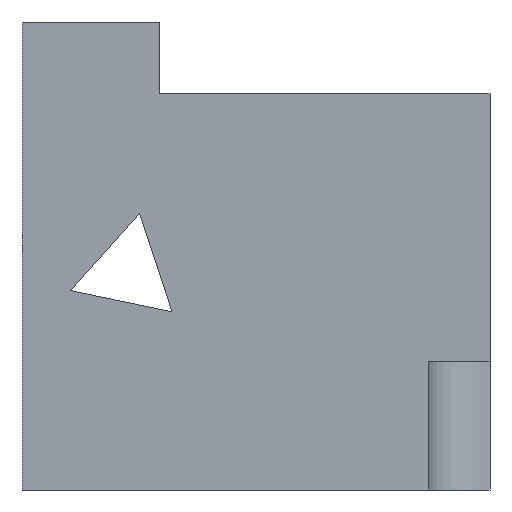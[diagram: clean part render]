
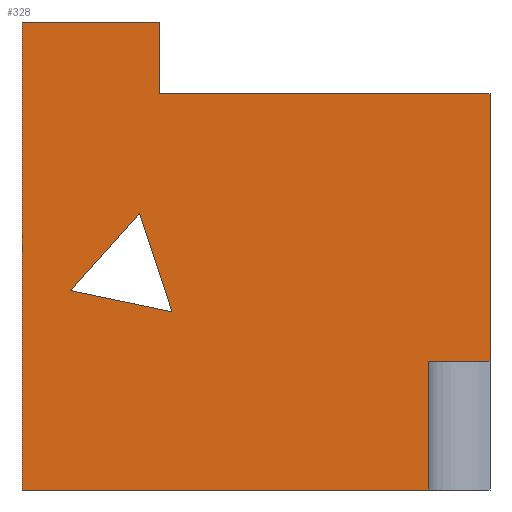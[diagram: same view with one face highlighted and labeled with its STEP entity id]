
A CAD part, left-side view. The second image highlights one B-rep face of the part: STEP entity #328.
In plain terms, the highlighted planar face has unit normal (-1, 0, 0).
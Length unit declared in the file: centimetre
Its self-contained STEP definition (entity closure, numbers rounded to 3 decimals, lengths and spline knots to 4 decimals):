
#20 = LINE ( 'NONE', #1115, #1390 ) ;
#40 = EDGE_CURVE ( 'NONE', #859, #370, #20, .T. ) ;
#47 = DIRECTION ( 'NONE',  ( 0., -1., 0. ) ) ;
#54 = CARTESIAN_POINT ( 'NONE',  ( 0., 0., 847.2054 ) ) ;
#85 = DIRECTION ( 'NONE',  ( 1., 0., 0. ) ) ;
#125 = EDGE_CURVE ( 'NONE', #1674, #859, #805, .T. ) ;
#136 = ORIENTED_EDGE ( 'NONE', *, *, #311, .F. ) ;
#167 = ORIENTED_EDGE ( 'NONE', *, *, #969, .F. ) ;
#168 = VERTEX_POINT ( 'NONE', #1256 ) ;
#171 = CARTESIAN_POINT ( 'NONE',  ( 0., 705.8839, 847.2054 ) ) ;
#189 = EDGE_CURVE ( 'NONE', #168, #1365, #361, .T. ) ;
#200 = ORIENTED_EDGE ( 'NONE', *, *, #837, .F. ) ;
#204 = EDGE_CURVE ( 'NONE', #1365, #1391, #801, .T. ) ;
#207 = VERTEX_POINT ( 'NONE', #1327 ) ;
#208 = LINE ( 'NONE', #749, #954 ) ;
#210 = VECTOR ( 'NONE', #387, 100. ) ;
#228 = FACE_BOUND ( 'NONE', #546, .T. ) ;
#229 = LINE ( 'NONE', #268, #512 ) ;
#235 = LINE ( 'NONE', #1569, #1544 ) ;
#255 = VECTOR ( 'NONE', #1105, 100. ) ;
#268 = CARTESIAN_POINT ( 'NONE',  ( 0., 748.6354, 591.211 ) ) ;
#311 = EDGE_CURVE ( 'NONE', #500, #1685, #673, .T. ) ;
#323 = ORIENTED_EDGE ( 'NONE', *, *, #40, .F. ) ;
#328 = ADVANCED_FACE ( 'NONE', ( #228, #1297 ), #1185, .F. ) ;
#334 = CARTESIAN_POINT ( 'NONE',  ( 0., 679.5419, 380.8241 ) ) ;
#357 = CARTESIAN_POINT ( 'NONE',  ( 0., 130.424, 0. ) ) ;
#361 = LINE ( 'NONE', #1417, #606 ) ;
#370 = VERTEX_POINT ( 'NONE', #1090 ) ;
#379 = ORIENTED_EDGE ( 'NONE', *, *, #1505, .F. ) ;
#387 = DIRECTION ( 'NONE',  ( 0., -1., 0. ) ) ;
#401 = DIRECTION ( 'NONE',  ( 0., 0., 1. ) ) ;
#407 = CARTESIAN_POINT ( 'NONE',  ( 0., 130.424, 275.2271 ) ) ;
#410 = DIRECTION ( 'NONE',  ( 0., 0., -1. ) ) ;
#420 = ORIENTED_EDGE ( 'NONE', *, *, #1065, .T. ) ;
#500 = VERTEX_POINT ( 'NONE', #334 ) ;
#512 = VECTOR ( 'NONE', #1712, 100. ) ;
#546 = EDGE_LOOP ( 'NONE', ( #136, #1439, #200 ) ) ;
#588 = ORIENTED_EDGE ( 'NONE', *, *, #125, .F. ) ;
#606 = VECTOR ( 'NONE', #47, 100. ) ;
#639 = DIRECTION ( 'NONE',  ( 0., 0., -1. ) ) ;
#668 = VECTOR ( 'NONE', #1202, 100. ) ;
#673 = LINE ( 'NONE', #1071, #668 ) ;
#707 = EDGE_CURVE ( 'NONE', #207, #1391, #208, .T. ) ;
#710 = LINE ( 'NONE', #835, #1541 ) ;
#732 = VERTEX_POINT ( 'NONE', #54 ) ;
#749 = CARTESIAN_POINT ( 'NONE',  ( 0., 1000., 275.2271 ) ) ;
#794 = VECTOR ( 'NONE', #1617, 100. ) ;
#801 = LINE ( 'NONE', #1593, #1530 ) ;
#805 = LINE ( 'NONE', #924, #210 ) ;
#835 = CARTESIAN_POINT ( 'NONE',  ( 0., 0., 1000. ) ) ;
#837 = EDGE_CURVE ( 'NONE', #1685, #1248, #229, .T. ) ;
#839 = CARTESIAN_POINT ( 'NONE',  ( 0., 1000., 1000. ) ) ;
#859 = VERTEX_POINT ( 'NONE', #1032 ) ;
#901 = DIRECTION ( 'NONE',  ( 0., -0.979, -0.205 ) ) ;
#923 = ORIENTED_EDGE ( 'NONE', *, *, #204, .T. ) ;
#924 = CARTESIAN_POINT ( 'NONE',  ( 0., 1000., 1000. ) ) ;
#954 = VECTOR ( 'NONE', #1149, 100. ) ;
#969 = EDGE_CURVE ( 'NONE', #732, #207, #710, .T. ) ;
#1032 = CARTESIAN_POINT ( 'NONE',  ( 0., 705.8839, 1000. ) ) ;
#1065 = EDGE_CURVE ( 'NONE', #1674, #168, #1214, .T. ) ;
#1071 = CARTESIAN_POINT ( 'NONE',  ( 0., 679.5419, 380.8241 ) ) ;
#1083 = AXIS2_PLACEMENT_3D ( 'NONE', #1456, #85, #639 ) ;
#1090 = CARTESIAN_POINT ( 'NONE',  ( 0., 705.8839, 847.2054 ) ) ;
#1105 = DIRECTION ( 'NONE',  ( 0., -1., 0. ) ) ;
#1106 = ORIENTED_EDGE ( 'NONE', *, *, #189, .T. ) ;
#1115 = CARTESIAN_POINT ( 'NONE',  ( 0., 705.8839, 847.2054 ) ) ;
#1149 = DIRECTION ( 'NONE',  ( 0., 1., 0. ) ) ;
#1185 = PLANE ( 'NONE',  #1083 ) ;
#1202 = DIRECTION ( 'NONE',  ( 0., 0.312, 0.95 ) ) ;
#1214 = LINE ( 'NONE', #1371, #794 ) ;
#1248 = VERTEX_POINT ( 'NONE', #1680 ) ;
#1256 = CARTESIAN_POINT ( 'NONE',  ( 0., 1000., 0. ) ) ;
#1297 = FACE_OUTER_BOUND ( 'NONE', #1301, .T. ) ;
#1301 = EDGE_LOOP ( 'NONE', ( #167, #379, #323, #588, #420, #1106, #923, #1363 ) ) ;
#1327 = CARTESIAN_POINT ( 'NONE',  ( 0., 0., 275.2271 ) ) ;
#1359 = EDGE_CURVE ( 'NONE', #1248, #500, #235, .T. ) ;
#1363 = ORIENTED_EDGE ( 'NONE', *, *, #707, .F. ) ;
#1365 = VERTEX_POINT ( 'NONE', #357 ) ;
#1371 = CARTESIAN_POINT ( 'NONE',  ( 0., 1000., 1000. ) ) ;
#1378 = DIRECTION ( 'NONE',  ( 0., 0., -1. ) ) ;
#1390 = VECTOR ( 'NONE', #1378, 100. ) ;
#1391 = VERTEX_POINT ( 'NONE', #407 ) ;
#1417 = CARTESIAN_POINT ( 'NONE',  ( 0., 1000., 0. ) ) ;
#1439 = ORIENTED_EDGE ( 'NONE', *, *, #1359, .F. ) ;
#1456 = CARTESIAN_POINT ( 'NONE',  ( 0., 1000., 1000. ) ) ;
#1495 = CARTESIAN_POINT ( 'NONE',  ( 0., 748.6354, 591.211 ) ) ;
#1505 = EDGE_CURVE ( 'NONE', #370, #732, #1518, .T. ) ;
#1518 = LINE ( 'NONE', #171, #255 ) ;
#1530 = VECTOR ( 'NONE', #401, 100. ) ;
#1541 = VECTOR ( 'NONE', #410, 100. ) ;
#1544 = VECTOR ( 'NONE', #901, 100. ) ;
#1569 = CARTESIAN_POINT ( 'NONE',  ( 0., 896.289, 426.1808 ) ) ;
#1593 = CARTESIAN_POINT ( 'NONE',  ( 0., 130.424, 275.2271 ) ) ;
#1617 = DIRECTION ( 'NONE',  ( 0., 0., -1. ) ) ;
#1674 = VERTEX_POINT ( 'NONE', #839 ) ;
#1680 = CARTESIAN_POINT ( 'NONE',  ( 0., 896.289, 426.1808 ) ) ;
#1685 = VERTEX_POINT ( 'NONE', #1495 ) ;
#1712 = DIRECTION ( 'NONE',  ( 0., 0.667, -0.745 ) ) ;
